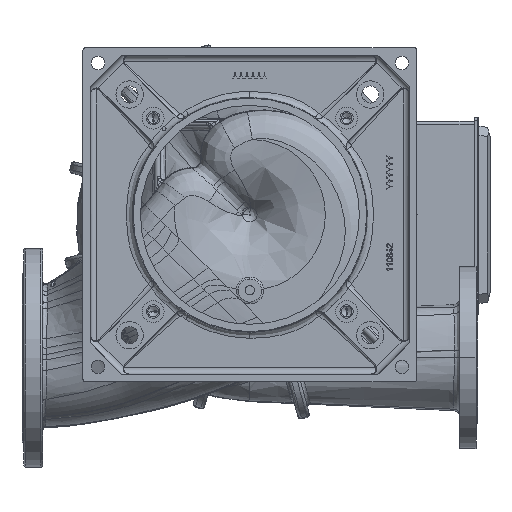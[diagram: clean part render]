
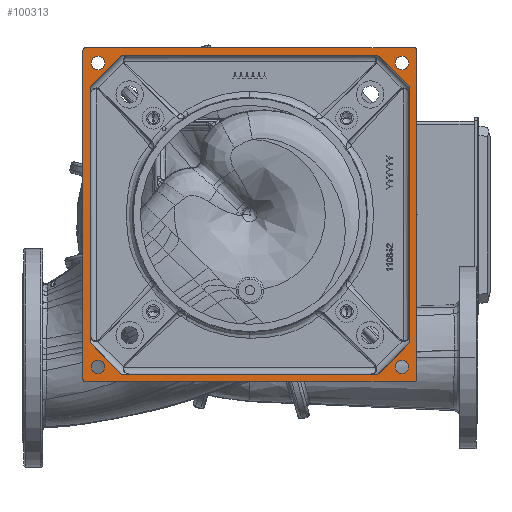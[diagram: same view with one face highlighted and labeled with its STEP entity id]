
A CAD part, front view. The second image highlights one B-rep face of the part: STEP entity #100313.
In plain terms, the highlighted planar face has unit normal (0, -1, 0).
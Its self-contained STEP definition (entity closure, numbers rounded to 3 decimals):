
#51=CARTESIAN_POINT('',(-250.,0.,250.));
#52=DIRECTION('',(0.,1.,0.));
#53=DIRECTION('',(1.,0.,0.));
#54=AXIS2_PLACEMENT_3D('',#51,#52,#53);
#56=CARTESIAN_POINT('',(-250.,0.,250.));
#57=DIRECTION('',(0.,1.,0.));
#58=DIRECTION('',(-1.,0.,0.));
#59=AXIS2_PLACEMENT_3D('',#56,#57,#58);
#61=CARTESIAN_POINT('',(250.,0.,250.));
#62=DIRECTION('',(0.,1.,0.));
#63=DIRECTION('',(0.,0.,-1.));
#64=AXIS2_PLACEMENT_3D('',#61,#62,#63);
#66=CARTESIAN_POINT('',(250.,0.,250.));
#67=DIRECTION('',(0.,1.,0.));
#68=DIRECTION('',(0.,0.,1.));
#69=AXIS2_PLACEMENT_3D('',#66,#67,#68);
#71=CARTESIAN_POINT('',(250.,0.,-250.));
#72=DIRECTION('',(0.,1.,0.));
#73=DIRECTION('',(-1.,0.,0.));
#74=AXIS2_PLACEMENT_3D('',#71,#72,#73);
#76=CARTESIAN_POINT('',(250.,0.,-250.));
#77=DIRECTION('',(0.,1.,0.));
#78=DIRECTION('',(1.,0.,0.));
#79=AXIS2_PLACEMENT_3D('',#76,#77,#78);
#81=CARTESIAN_POINT('',(-250.,0.,-250.));
#82=DIRECTION('',(0.,1.,0.));
#83=DIRECTION('',(0.,0.,1.));
#84=AXIS2_PLACEMENT_3D('',#81,#82,#83);
#86=CARTESIAN_POINT('',(-250.,0.,-250.));
#87=DIRECTION('',(0.,1.,0.));
#88=DIRECTION('',(0.,0.,-1.));
#89=AXIS2_PLACEMENT_3D('',#86,#87,#88);
#91=DIRECTION('',(-1.,0.,0.));
#92=VECTOR('',#91,540.);
#93=CARTESIAN_POINT('',(270.,0.,274.843));
#94=LINE('',#93,#92);
#107=CARTESIAN_POINT('',(-270.,0.,270.));
#108=DIRECTION('',(0.,-1.,0.));
#109=DIRECTION('',(0.,0.,1.));
#110=AXIS2_PLACEMENT_3D('',#107,#108,#109);
#131=DIRECTION('',(0.,0.,-1.));
#132=VECTOR('',#131,540.);
#133=CARTESIAN_POINT('',(-274.843,0.,270.));
#134=LINE('',#133,#132);
#147=CARTESIAN_POINT('',(-270.,0.,-270.));
#148=DIRECTION('',(0.,-1.,0.));
#149=DIRECTION('',(-1.,0.,0.));
#150=AXIS2_PLACEMENT_3D('',#147,#148,#149);
#171=DIRECTION('',(1.,0.,0.));
#172=VECTOR('',#171,540.);
#173=CARTESIAN_POINT('',(-270.,0.,-274.843));
#174=LINE('',#173,#172);
#187=CARTESIAN_POINT('',(270.,0.,-270.));
#188=DIRECTION('',(0.,-1.,0.));
#189=DIRECTION('',(0.,0.,-1.));
#190=AXIS2_PLACEMENT_3D('',#187,#188,#189);
#211=DIRECTION('',(0.,0.,1.));
#212=VECTOR('',#211,540.);
#213=CARTESIAN_POINT('',(274.843,0.,-270.));
#214=LINE('',#213,#212);
#227=CARTESIAN_POINT('',(270.,0.,270.));
#228=DIRECTION('',(0.,-1.,0.));
#229=DIRECTION('',(1.,0.,0.));
#230=AXIS2_PLACEMENT_3D('',#227,#228,#229);
#4331=DIRECTION('',(1.,0.,0.));
#4332=VECTOR('',#4331,421.393);
#4333=CARTESIAN_POINT('',(-210.696,0.,-262.843));
#4334=LINE('',#4333,#4332);
#4371=DIRECTION('',(0.707,0.,-0.707));
#4372=VECTOR('',#4371,73.746);
#4373=CARTESIAN_POINT('',(-262.843,0.,-210.696));
#4374=LINE('',#4373,#4372);
#4383=DIRECTION('',(0.,0.,-1.));
#4384=VECTOR('',#4383,421.393);
#4385=CARTESIAN_POINT('',(-262.843,0.,210.696));
#4386=LINE('',#4385,#4384);
#4423=DIRECTION('',(-0.707,0.,-0.707));
#4424=VECTOR('',#4423,73.746);
#4425=CARTESIAN_POINT('',(-210.696,0.,262.843));
#4426=LINE('',#4425,#4424);
#4435=DIRECTION('',(-1.,0.,0.));
#4436=VECTOR('',#4435,421.393);
#4437=CARTESIAN_POINT('',(210.696,0.,262.843));
#4438=LINE('',#4437,#4436);
#4475=DIRECTION('',(-0.707,0.,0.707));
#4476=VECTOR('',#4475,73.746);
#4477=CARTESIAN_POINT('',(262.843,0.,210.696));
#4478=LINE('',#4477,#4476);
#4487=DIRECTION('',(0.,0.,1.));
#4488=VECTOR('',#4487,421.393);
#4489=CARTESIAN_POINT('',(262.843,0.,-210.696));
#4490=LINE('',#4489,#4488);
#4527=DIRECTION('',(0.707,0.,0.707));
#4528=VECTOR('',#4527,73.746);
#4529=CARTESIAN_POINT('',(210.696,0.,-262.843));
#4530=LINE('',#4529,#4528);
#90200=CARTESIAN_POINT('',(270.,0.,274.843));
#90201=CARTESIAN_POINT('',(-270.,0.,274.843));
#90202=VERTEX_POINT('',#90200);
#90203=VERTEX_POINT('',#90201);
#90204=CARTESIAN_POINT('',(274.843,0.,-270.));
#90205=CARTESIAN_POINT('',(274.843,0.,270.));
#90206=VERTEX_POINT('',#90204);
#90207=VERTEX_POINT('',#90205);
#90208=CARTESIAN_POINT('',(-270.,0.,-274.843));
#90209=CARTESIAN_POINT('',(270.,0.,-274.843));
#90210=VERTEX_POINT('',#90208);
#90211=VERTEX_POINT('',#90209);
#90212=CARTESIAN_POINT('',(-274.843,0.,270.));
#90213=CARTESIAN_POINT('',(-274.843,0.,-270.));
#90214=VERTEX_POINT('',#90212);
#90215=VERTEX_POINT('',#90213);
#90220=CARTESIAN_POINT('',(-210.696,0.,-262.843));
#90221=CARTESIAN_POINT('',(210.696,0.,-262.843));
#90222=VERTEX_POINT('',#90220);
#90223=VERTEX_POINT('',#90221);
#90224=CARTESIAN_POINT('',(262.843,0.,-210.696));
#90225=CARTESIAN_POINT('',(262.843,0.,210.696));
#90226=VERTEX_POINT('',#90224);
#90227=VERTEX_POINT('',#90225);
#90228=CARTESIAN_POINT('',(210.696,0.,262.843));
#90229=CARTESIAN_POINT('',(-210.696,0.,262.843));
#90230=VERTEX_POINT('',#90228);
#90231=VERTEX_POINT('',#90229);
#90232=CARTESIAN_POINT('',(-262.843,0.,210.696));
#90233=CARTESIAN_POINT('',(-262.843,0.,-210.696));
#90234=VERTEX_POINT('',#90232);
#90235=VERTEX_POINT('',#90233);
#90276=CARTESIAN_POINT('',(-239.,0.,250.));
#90277=CARTESIAN_POINT('',(-261.,0.,250.));
#90278=VERTEX_POINT('',#90276);
#90279=VERTEX_POINT('',#90277);
#90318=CARTESIAN_POINT('',(250.,0.,239.));
#90319=VERTEX_POINT('',#90318);
#90322=CARTESIAN_POINT('',(250.,0.,261.));
#90323=VERTEX_POINT('',#90322);
#90362=CARTESIAN_POINT('',(239.,0.,-250.));
#90363=VERTEX_POINT('',#90362);
#90366=CARTESIAN_POINT('',(261.,0.,-250.));
#90367=VERTEX_POINT('',#90366);
#90406=CARTESIAN_POINT('',(-250.,0.,-239.));
#90407=VERTEX_POINT('',#90406);
#90410=CARTESIAN_POINT('',(-250.,0.,-261.));
#90411=VERTEX_POINT('',#90410);
#100250=CARTESIAN_POINT('',(295.95,0.,286.338));
#100251=DIRECTION('',(0.,1.,0.));
#100252=DIRECTION('',(0.,0.,-1.));
#100253=AXIS2_PLACEMENT_3D('',#100250,#100251,#100252);
#100254=PLANE('',#100253);
#100256=ORIENTED_EDGE('',*,*,#100255,.F.);
#100258=ORIENTED_EDGE('',*,*,#100257,.F.);
#100260=ORIENTED_EDGE('',*,*,#100259,.F.);
#100262=ORIENTED_EDGE('',*,*,#100261,.F.);
#100264=ORIENTED_EDGE('',*,*,#100263,.F.);
#100266=ORIENTED_EDGE('',*,*,#100265,.F.);
#100268=ORIENTED_EDGE('',*,*,#100267,.F.);
#100270=ORIENTED_EDGE('',*,*,#100269,.F.);
#100271=EDGE_LOOP('',(#100256,#100258,#100260,#100262,#100264,#100266,#100268,
#100270));
#100272=FACE_OUTER_BOUND('',#100271,.F.);
#100274=ORIENTED_EDGE('',*,*,#100273,.T.);
#100276=ORIENTED_EDGE('',*,*,#100275,.T.);
#100278=ORIENTED_EDGE('',*,*,#100277,.T.);
#100280=ORIENTED_EDGE('',*,*,#100279,.T.);
#100282=ORIENTED_EDGE('',*,*,#100281,.T.);
#100284=ORIENTED_EDGE('',*,*,#100283,.T.);
#100286=ORIENTED_EDGE('',*,*,#100285,.T.);
#100288=ORIENTED_EDGE('',*,*,#100287,.T.);
#100289=EDGE_LOOP('',(#100274,#100276,#100278,#100280,#100282,#100284,#100286,
#100288));
#100290=FACE_BOUND('',#100289,.F.);
#100292=ORIENTED_EDGE('',*,*,#100291,.F.);
#100294=ORIENTED_EDGE('',*,*,#100293,.F.);
#100295=EDGE_LOOP('',(#100292,#100294));
#100296=FACE_BOUND('',#100295,.F.);
#100297=ORIENTED_EDGE('',*,*,#100243,.F.);
#100298=ORIENTED_EDGE('',*,*,#100232,.F.);
#100299=EDGE_LOOP('',(#100297,#100298));
#100300=FACE_BOUND('',#100299,.F.);
#100302=ORIENTED_EDGE('',*,*,#100301,.F.);
#100304=ORIENTED_EDGE('',*,*,#100303,.F.);
#100305=EDGE_LOOP('',(#100302,#100304));
#100306=FACE_BOUND('',#100305,.F.);
#100308=ORIENTED_EDGE('',*,*,#100307,.F.);
#100310=ORIENTED_EDGE('',*,*,#100309,.F.);
#100311=EDGE_LOOP('',(#100308,#100310));
#100312=FACE_BOUND('',#100311,.F.);
#100313=ADVANCED_FACE('',(#100272,#100290,#100296,#100300,#100306,#100312),
#100254,.F.);
#55=CIRCLE('',#54,11.);
#60=CIRCLE('',#59,11.);
#65=CIRCLE('',#64,11.);
#70=CIRCLE('',#69,11.);
#75=CIRCLE('',#74,11.);
#80=CIRCLE('',#79,11.);
#85=CIRCLE('',#84,11.);
#90=CIRCLE('',#89,11.);
#111=CIRCLE('',#110,4.843);
#151=CIRCLE('',#150,4.843);
#191=CIRCLE('',#190,4.843);
#231=CIRCLE('',#230,4.843);
#100232=EDGE_CURVE('',#90323,#90319,#70,.T.);
#100243=EDGE_CURVE('',#90319,#90323,#65,.T.);
#100255=EDGE_CURVE('',#90202,#90203,#94,.T.);
#100257=EDGE_CURVE('',#90207,#90202,#231,.T.);
#100259=EDGE_CURVE('',#90206,#90207,#214,.T.);
#100261=EDGE_CURVE('',#90211,#90206,#191,.T.);
#100263=EDGE_CURVE('',#90210,#90211,#174,.T.);
#100265=EDGE_CURVE('',#90215,#90210,#151,.T.);
#100267=EDGE_CURVE('',#90214,#90215,#134,.T.);
#100269=EDGE_CURVE('',#90203,#90214,#111,.T.);
#100273=EDGE_CURVE('',#90222,#90223,#4334,.T.);
#100275=EDGE_CURVE('',#90223,#90226,#4530,.T.);
#100277=EDGE_CURVE('',#90226,#90227,#4490,.T.);
#100279=EDGE_CURVE('',#90227,#90230,#4478,.T.);
#100281=EDGE_CURVE('',#90230,#90231,#4438,.T.);
#100283=EDGE_CURVE('',#90231,#90234,#4426,.T.);
#100285=EDGE_CURVE('',#90234,#90235,#4386,.T.);
#100287=EDGE_CURVE('',#90235,#90222,#4374,.T.);
#100291=EDGE_CURVE('',#90278,#90279,#55,.T.);
#100293=EDGE_CURVE('',#90279,#90278,#60,.T.);
#100301=EDGE_CURVE('',#90363,#90367,#75,.T.);
#100303=EDGE_CURVE('',#90367,#90363,#80,.T.);
#100307=EDGE_CURVE('',#90407,#90411,#85,.T.);
#100309=EDGE_CURVE('',#90411,#90407,#90,.T.);
